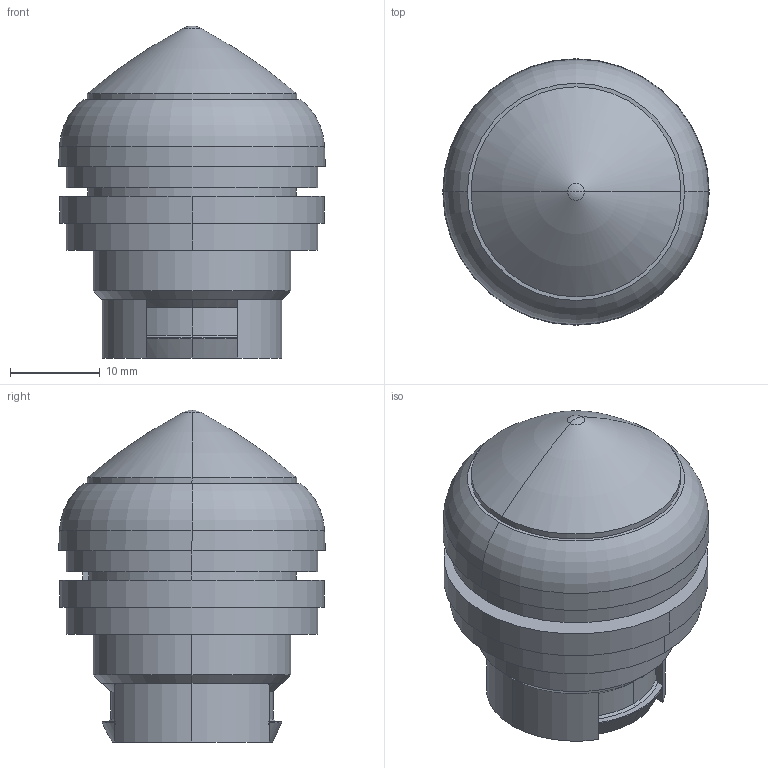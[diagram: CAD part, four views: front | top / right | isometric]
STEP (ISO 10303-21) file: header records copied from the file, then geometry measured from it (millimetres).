
FILE_DESCRIPTION( ( '' ), '1' );
FILE_NAME( '//expscmdclustefs.cadenas.external/client_exchange/iodir/jobs/output/wkb46014223_no0/STEP/216778_2_03.stp', '2012-06-15T15:14:31', ( '' ), ( '' ), ' ', ' ', ' ' );
FILE_SCHEMA( ( 'CONFIG_CONTROL_DESIGN' ) );
Length unit declared in the file: millimetre
Products named in the file (1): 1
Bounding box: 29.7 x 29.7 x 37 mm (x, y, z)
Volume: 16025 mm3; surface area: 4170.7 mm2
Topology: 1 solids, 1 shells, 65 faces, 155 edges, 97 vertices
Faces by surface type: plane 24, cylinder 19, cone 16, torus 6
Entity records: 1918 total; most frequent: DIRECTION 352, CARTESIAN_POINT 340, ORIENTED_EDGE 306, EDGE_CURVE 153, AXIS2_PLACEMENT_3D 145, VERTEX_POINT 97, CIRCLE 77, EDGE_LOOP 72
